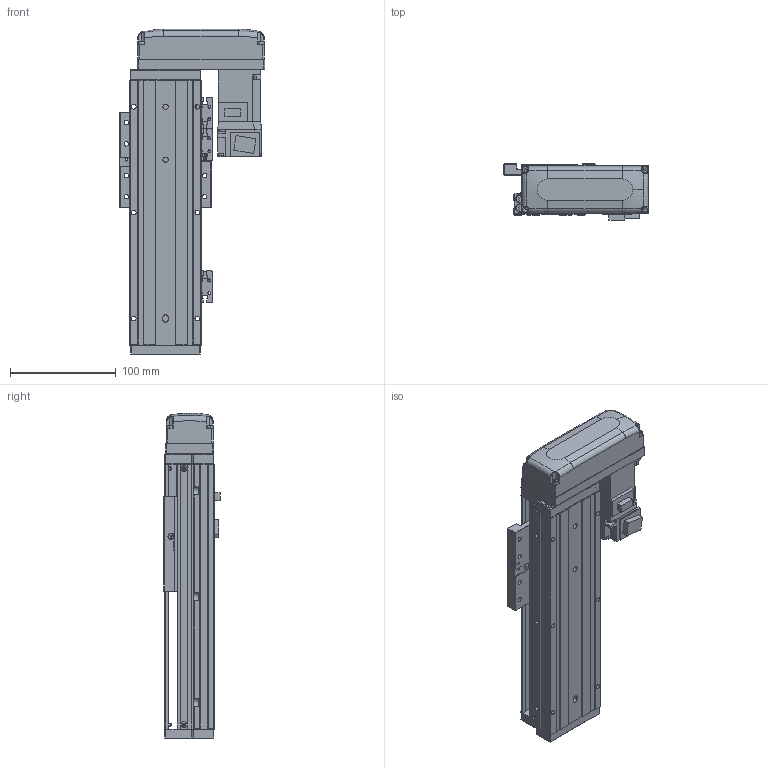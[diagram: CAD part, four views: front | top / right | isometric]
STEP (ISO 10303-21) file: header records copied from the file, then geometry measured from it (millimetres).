
FILE_DESCRIPTION (( 'STEP AP203' ), '1' );
FILE_NAME ('KTHAL60-100-BL-M10-C4L.step', '2022-03-19T08:37:09', ( '微软用户' ), ( '微软中国' ), 'SwSTEP 2.0', 'SolidWorks 2020', '' );
FILE_SCHEMA (( 'CONFIG_CONTROL_DESIGN' ));
Length unit declared in the file: millimetre
Products named in the file (18): EE_SX911P_R; CTHA60-015-2_CTHA60-015-2; KTHA60-001_250; CTHA60-017; CTHA60-033; KTHLA60-002; CTHA60-021; GBT 70.1-M3×15; KTHA60-004; GBT77-2000M3-3; GBT 70.1-M4×16; KTHAL60-100-BL-M10-C4L; KTHA60-005; GBT 70.1-M3℅6; GB¨uT 70.2-M3¡Á5_M3¡Á6; CTHA60-016; GBT 70.3-M3℅6; HG-KR13（三菱）
Assembly tree (51 placements, depth 2):
  KTHAL60-100-BL-M10-C4L
    KTHA60-001_250
    KTHLA60-002
    KTHA60-004
    KTHA60-005
    GB¨uT 70.2-M3¡Á5_M3¡Á6  x5
    GBT 70.3-M3℅6  x4
    EE_SX911P_R  x3
    CTHA60-017  x3
    CTHA60-021  x2
    GBT 70.1-M4×16  x10
    GBT77-2000M3-3  x6
    GBT 70.1-M3℅6  x6
    CTHA60-016
    HG-KR13（三菱）
    CTHA60-015-2_CTHA60-015-2
    CTHA60-033
    GBT 70.1-M3×15  x4
Bounding box: 137 x 53.3 x 307 mm (x, y, z)
Volume: 879574.9 mm3; surface area: 215761.5 mm2
Topology: 54 solids, 54 shells, 2215 faces, 5219 edges, 3197 vertices
Faces by surface type: plane 1264, cylinder 535, cone 278, torus 98, bspline 26, sphere 14
Entity records: 37409 total; most frequent: CARTESIAN_POINT 7112, DIRECTION 5803, ORIENTED_EDGE 5582, EDGE_CURVE 2791, AXIS2_PLACEMENT_3D 1955, VECTOR 1893, LINE 1893, VERTEX_POINT 1746
